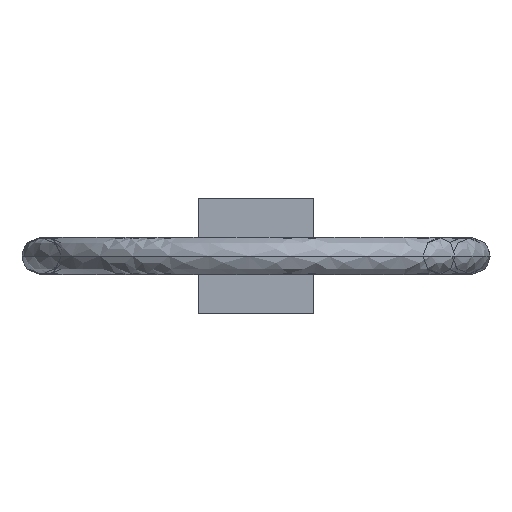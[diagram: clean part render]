
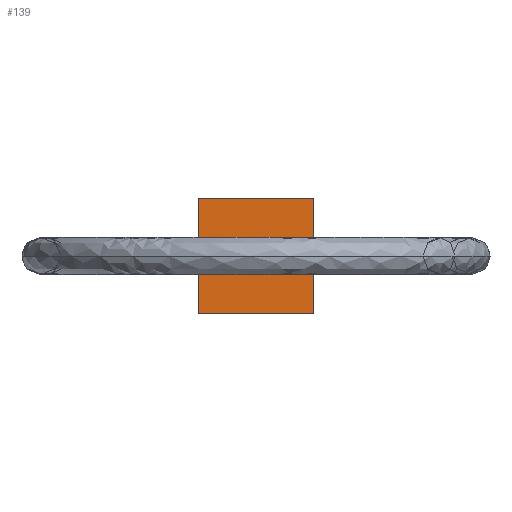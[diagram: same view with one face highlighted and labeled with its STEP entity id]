
A CAD part, left-side view. The second image highlights one B-rep face of the part: STEP entity #139.
In plain terms, the highlighted planar face has unit normal (1, 0, 0).
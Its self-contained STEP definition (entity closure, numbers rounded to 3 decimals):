
#135 = ORIENTED_EDGE ( 'NONE', *, *, #2008, .F. ) ;
#139 = ADVANCED_FACE ( 'NONE', ( #651, #652 ), #653, .T. ) ;
#179 = VERTEX_POINT ( 'NONE', #1204 ) ;
#326 = LINE ( 'NONE', #327, #328 ) ;
#327 = CARTESIAN_POINT ( 'NONE',  ( -272., -1.25, 0. ) ) ;
#328 = VECTOR ( 'NONE', #329, 1000. ) ;
#329 = DIRECTION ( 'NONE',  ( 0., 0., 1. ) ) ;
#385 = VERTEX_POINT ( 'NONE', #1452 ) ;
#432 = B_SPLINE_CURVE_WITH_KNOTS ( 'NONE', 3,
 ( #433, #434, #435, #436, #437, #438, #439, #440, #441, #442, #443, #444, #445, #446, #447, #448, #449, #450, #451, #455, #456, #457, #458, #459, #460, #461, #462, #463, #464, #465 ),
 .UNSPECIFIED., .F., .F.,
 ( 4, 2, 1, 1, 2, 2, 1, 2, 2, 2, 1, 2, 2, 1, 1, 2, 2, 4 ),
 ( 0., 0.125, 0.188, 0.219, 0.234, 0.25, 0.313, 0.344, 0.375, 0.5, 0.563, 0.594, 0.625, 0.688, 0.719, 0.734, 0.75, 1. ),
 .UNSPECIFIED. ) ;
#433 = CARTESIAN_POINT ( 'NONE',  ( -272., -0.405, 0. ) ) ;
#434 = CARTESIAN_POINT ( 'NONE',  ( -272., -0.405, -0.045 ) ) ;
#435 = CARTESIAN_POINT ( 'NONE',  ( -272., -0.398, -0.088 ) ) ;
#436 = CARTESIAN_POINT ( 'NONE',  ( -272., -0.378, -0.149 ) ) ;
#437 = CARTESIAN_POINT ( 'NONE',  ( -272., -0.365, -0.178 ) ) ;
#438 = CARTESIAN_POINT ( 'NONE',  ( -272., -0.346, -0.211 ) ) ;
#439 = CARTESIAN_POINT ( 'NONE',  ( -272., -0.337, -0.225 ) ) ;
#440 = CARTESIAN_POINT ( 'NONE',  ( -272., -0.331, -0.234 ) ) ;
#441 = CARTESIAN_POINT ( 'NONE',  ( -272., -0.329, -0.237 ) ) ;
#442 = CARTESIAN_POINT ( 'NONE',  ( -272., -0.306, -0.267 ) ) ;
#443 = CARTESIAN_POINT ( 'NONE',  ( -272., -0.276, -0.299 ) ) ;
#444 = CARTESIAN_POINT ( 'NONE',  ( -272., -0.241, -0.326 ) ) ;
#445 = CARTESIAN_POINT ( 'NONE',  ( -272., -0.216, -0.343 ) ) ;
#446 = CARTESIAN_POINT ( 'NONE',  ( -272., -0.206, -0.349 ) ) ;
#447 = CARTESIAN_POINT ( 'NONE',  ( -272., -0.131, -0.389 ) ) ;
#448 = CARTESIAN_POINT ( 'NONE',  ( -272., -0.068, -0.405 ) ) ;
#449 = CARTESIAN_POINT ( 'NONE',  ( -272., 0.034, -0.405 ) ) ;
#450 = CARTESIAN_POINT ( 'NONE',  ( -272., 0.083, -0.399 ) ) ;
#451 = CARTESIAN_POINT ( 'NONE',  ( -272., 0.13, -0.384 ) ) ;
#455 = CARTESIAN_POINT ( 'NONE',  ( -272., 0.161, -0.372 ) ) ;
#456 = CARTESIAN_POINT ( 'NONE',  ( -272., 0.177, -0.364 ) ) ;
#457 = CARTESIAN_POINT ( 'NONE',  ( -272., 0.217, -0.343 ) ) ;
#458 = CARTESIAN_POINT ( 'NONE',  ( -272., 0.254, -0.318 ) ) ;
#459 = CARTESIAN_POINT ( 'NONE',  ( -272., 0.291, -0.283 ) ) ;
#460 = CARTESIAN_POINT ( 'NONE',  ( -272., 0.305, -0.266 ) ) ;
#461 = CARTESIAN_POINT ( 'NONE',  ( -272., 0.315, -0.255 ) ) ;
#462 = CARTESIAN_POINT ( 'NONE',  ( -272., 0.321, -0.248 ) ) ;
#463 = CARTESIAN_POINT ( 'NONE',  ( -272., 0.378, -0.17 ) ) ;
#464 = CARTESIAN_POINT ( 'NONE',  ( -272., 0.405, -0.09 ) ) ;
#465 = CARTESIAN_POINT ( 'NONE',  ( -272., 0.405, 0. ) ) ;
#467 = LINE ( 'NONE', #468, #469 ) ;
#468 = CARTESIAN_POINT ( 'NONE',  ( -272., 1.25, 0. ) ) ;
#469 = VECTOR ( 'NONE', #470, 1000. ) ;
#470 = DIRECTION ( 'NONE',  ( 0., 0., -1. ) ) ;
#603 = EDGE_CURVE ( 'NONE', #385, #179, #1631, .T. ) ;
#651 = FACE_BOUND ( 'NONE', #2014, .T. ) ;
#652 = FACE_OUTER_BOUND ( 'NONE', #1456, .T. ) ;
#653 = PLANE ( 'NONE',  #654 ) ;
#654 = AXIS2_PLACEMENT_3D ( 'NONE', #655, #656, #657 ) ;
#655 = CARTESIAN_POINT ( 'NONE',  ( -272., -1.3, -1.3 ) ) ;
#656 = DIRECTION ( 'NONE',  ( 1., 0., 0. ) ) ;
#657 = DIRECTION ( 'NONE',  ( 0., 1., 0. ) ) ;
#958 = ORIENTED_EDGE ( 'NONE', *, *, #603, .F. ) ;
#1204 = CARTESIAN_POINT ( 'NONE',  ( -272., 1.25, 1.25 ) ) ;
#1323 = CARTESIAN_POINT ( 'NONE',  ( -272., -1.25, -1.25 ) ) ;
#1362 = CARTESIAN_POINT ( 'NONE',  ( -272., -0.405, 0. ) ) ;
#1367 = CARTESIAN_POINT ( 'NONE',  ( -272., 1.25, -1.25 ) ) ;
#1452 = CARTESIAN_POINT ( 'NONE',  ( -272., -1.25, 1.25 ) ) ;
#1456 = EDGE_LOOP ( 'NONE', ( #958, #135, #1969, #1910 ) ) ;
#1493 = CARTESIAN_POINT ( 'NONE',  ( -272., 0.405, 0. ) ) ;
#1495 = LINE ( 'NONE', #1496, #1497 ) ;
#1496 = CARTESIAN_POINT ( 'NONE',  ( -272., 0., -1.25 ) ) ;
#1497 = VECTOR ( 'NONE', #1498, 1000. ) ;
#1498 = DIRECTION ( 'NONE',  ( 0., -1., 0. ) ) ;
#1631 = LINE ( 'NONE', #1632, #1633 ) ;
#1632 = CARTESIAN_POINT ( 'NONE',  ( -272., 0., 1.25 ) ) ;
#1633 = VECTOR ( 'NONE', #1634, 1000. ) ;
#1634 = DIRECTION ( 'NONE',  ( 0., 1., 0. ) ) ;
#1673 = B_SPLINE_CURVE_WITH_KNOTS ( 'NONE', 3,
 ( #1674, #1675, #1676, #1678, #1679, #1680, #1681, #1682, #1683, #1684, #1685, #1686, #1687, #1688, #1689, #1690, #1691, #1692, #1693, #1696, #1697, #1698, #1699, #1700, #1701, #1702, #1703, #1704, #1705, #1706 ),
 .UNSPECIFIED., .F., .F.,
 ( 4, 2, 1, 1, 2, 2, 1, 2, 2, 2, 1, 2, 2, 1, 1, 2, 2, 4 ),
 ( 0., 0.125, 0.187, 0.219, 0.234, 0.25, 0.312, 0.344, 0.375, 0.5, 0.562, 0.594, 0.625, 0.687, 0.719, 0.734, 0.75, 1. ),
 .UNSPECIFIED. ) ;
#1674 = CARTESIAN_POINT ( 'NONE',  ( -272., 0.405, 0. ) ) ;
#1675 = CARTESIAN_POINT ( 'NONE',  ( -272., 0.405, 0.045 ) ) ;
#1676 = CARTESIAN_POINT ( 'NONE',  ( -272., 0.398, 0.088 ) ) ;
#1677 = EDGE_CURVE ( 'NONE', #1933, #1948, #432, .T. ) ;
#1678 = CARTESIAN_POINT ( 'NONE',  ( -272., 0.378, 0.149 ) ) ;
#1679 = CARTESIAN_POINT ( 'NONE',  ( -272., 0.365, 0.178 ) ) ;
#1680 = CARTESIAN_POINT ( 'NONE',  ( -272., 0.346, 0.211 ) ) ;
#1681 = CARTESIAN_POINT ( 'NONE',  ( -272., 0.337, 0.225 ) ) ;
#1682 = CARTESIAN_POINT ( 'NONE',  ( -272., 0.331, 0.234 ) ) ;
#1683 = CARTESIAN_POINT ( 'NONE',  ( -272., 0.329, 0.237 ) ) ;
#1684 = CARTESIAN_POINT ( 'NONE',  ( -272., 0.306, 0.267 ) ) ;
#1685 = CARTESIAN_POINT ( 'NONE',  ( -272., 0.276, 0.299 ) ) ;
#1686 = CARTESIAN_POINT ( 'NONE',  ( -272., 0.241, 0.326 ) ) ;
#1687 = CARTESIAN_POINT ( 'NONE',  ( -272., 0.216, 0.343 ) ) ;
#1688 = CARTESIAN_POINT ( 'NONE',  ( -272., 0.206, 0.349 ) ) ;
#1689 = CARTESIAN_POINT ( 'NONE',  ( -272., 0.131, 0.389 ) ) ;
#1690 = CARTESIAN_POINT ( 'NONE',  ( -272., 0.068, 0.405 ) ) ;
#1691 = CARTESIAN_POINT ( 'NONE',  ( -272., -0.034, 0.405 ) ) ;
#1692 = CARTESIAN_POINT ( 'NONE',  ( -272., -0.083, 0.399 ) ) ;
#1693 = CARTESIAN_POINT ( 'NONE',  ( -272., -0.13, 0.384 ) ) ;
#1695 = EDGE_CURVE ( 'NONE', #179, #1935, #467, .T. ) ;
#1696 = CARTESIAN_POINT ( 'NONE',  ( -272., -0.161, 0.372 ) ) ;
#1697 = CARTESIAN_POINT ( 'NONE',  ( -272., -0.177, 0.364 ) ) ;
#1698 = CARTESIAN_POINT ( 'NONE',  ( -272., -0.217, 0.343 ) ) ;
#1699 = CARTESIAN_POINT ( 'NONE',  ( -272., -0.254, 0.318 ) ) ;
#1700 = CARTESIAN_POINT ( 'NONE',  ( -272., -0.291, 0.283 ) ) ;
#1701 = CARTESIAN_POINT ( 'NONE',  ( -272., -0.305, 0.266 ) ) ;
#1702 = CARTESIAN_POINT ( 'NONE',  ( -272., -0.315, 0.255 ) ) ;
#1703 = CARTESIAN_POINT ( 'NONE',  ( -272., -0.321, 0.248 ) ) ;
#1704 = CARTESIAN_POINT ( 'NONE',  ( -272., -0.378, 0.17 ) ) ;
#1705 = CARTESIAN_POINT ( 'NONE',  ( -272., -0.405, 0.09 ) ) ;
#1706 = CARTESIAN_POINT ( 'NONE',  ( -272., -0.405, 0. ) ) ;
#1909 = ORIENTED_EDGE ( 'NONE', *, *, #1677, .F. ) ;
#1910 = ORIENTED_EDGE ( 'NONE', *, *, #1695, .F. ) ;
#1933 = VERTEX_POINT ( 'NONE', #1362 ) ;
#1935 = VERTEX_POINT ( 'NONE', #1367 ) ;
#1948 = VERTEX_POINT ( 'NONE', #1493 ) ;
#1950 = EDGE_CURVE ( 'NONE', #1935, #1996, #1495, .T. ) ;
#1959 = EDGE_CURVE ( 'NONE', #1948, #1933, #1673, .T. ) ;
#1969 = ORIENTED_EDGE ( 'NONE', *, *, #1950, .F. ) ;
#1977 = ORIENTED_EDGE ( 'NONE', *, *, #1959, .F. ) ;
#1996 = VERTEX_POINT ( 'NONE', #1323 ) ;
#2008 = EDGE_CURVE ( 'NONE', #1996, #385, #326, .T. ) ;
#2014 = EDGE_LOOP ( 'NONE', ( #1977, #1909 ) ) ;
